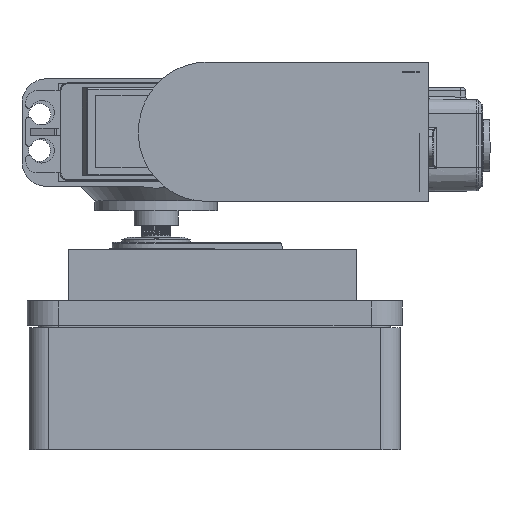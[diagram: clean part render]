
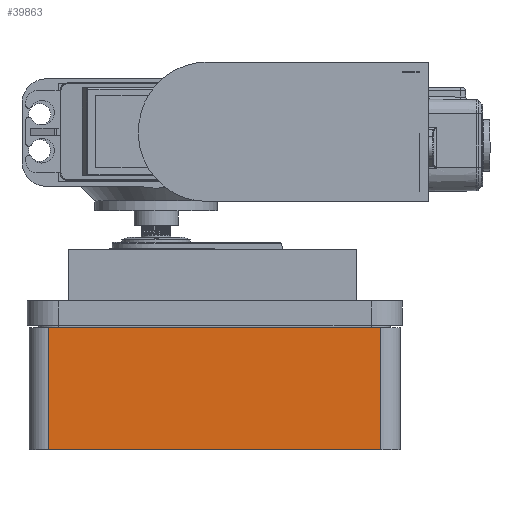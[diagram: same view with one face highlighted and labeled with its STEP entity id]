
A CAD part, left-side view. The second image highlights one B-rep face of the part: STEP entity #39863.
In plain terms, the highlighted planar face has unit normal (-1, 0, 0).
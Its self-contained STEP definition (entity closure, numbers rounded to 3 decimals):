
#3686=LINE('',#364609,#6807);
#3723=LINE('',#364696,#6844);
#3724=LINE('',#364700,#6845);
#3725=LINE('',#364701,#6846);
#6807=VECTOR('',#51269,10.);
#6844=VECTOR('',#51336,10.);
#6845=VECTOR('',#51341,10.);
#6846=VECTOR('',#51342,10.);
#9149=PLANE('',#42911);
#11271=FACE_OUTER_BOUND('',#13609,.T.);
#13609=EDGE_LOOP('',(#35914,#35915,#35916,#35917));
#19449=VERTEX_POINT('',#364606);
#19450=VERTEX_POINT('',#364608);
#19485=VERTEX_POINT('',#364695);
#19486=VERTEX_POINT('',#364699);
#24995=EDGE_CURVE('',#19449,#19450,#3686,.T.);
#25039=EDGE_CURVE('',#19450,#19485,#3723,.T.);
#25041=EDGE_CURVE('',#19486,#19449,#3724,.T.);
#25042=EDGE_CURVE('',#19486,#19485,#3725,.T.);
#35914=ORIENTED_EDGE('',*,*,#25039,.F.);
#35915=ORIENTED_EDGE('',*,*,#24995,.F.);
#35916=ORIENTED_EDGE('',*,*,#25041,.F.);
#35917=ORIENTED_EDGE('',*,*,#25042,.T.);
#39863=ADVANCED_FACE('',(#11271),#9149,.T.);
#42911=AXIS2_PLACEMENT_3D('',#364698,#51339,#51340);
#51269=DIRECTION('',(0.,-1.,0.));
#51336=DIRECTION('',(0.,0.,-1.));
#51339=DIRECTION('center_axis',(-1.,0.,0.));
#51340=DIRECTION('ref_axis',(0.,-1.,0.));
#51341=DIRECTION('',(0.,0.,1.));
#51342=DIRECTION('',(0.,-1.,0.));
#364606=CARTESIAN_POINT('',(-76.147,45.,25.));
#364608=CARTESIAN_POINT('',(-76.147,-23.,25.));
#364609=CARTESIAN_POINT('',(-76.147,41.,25.));
#364695=CARTESIAN_POINT('',(-76.147,-23.,0.));
#364696=CARTESIAN_POINT('',(-76.147,-23.,0.));
#364698=CARTESIAN_POINT('Origin',(-76.147,49.,0.));
#364699=CARTESIAN_POINT('',(-76.147,45.,0.));
#364700=CARTESIAN_POINT('',(-76.147,45.,0.));
#364701=CARTESIAN_POINT('',(-76.147,41.,0.));
